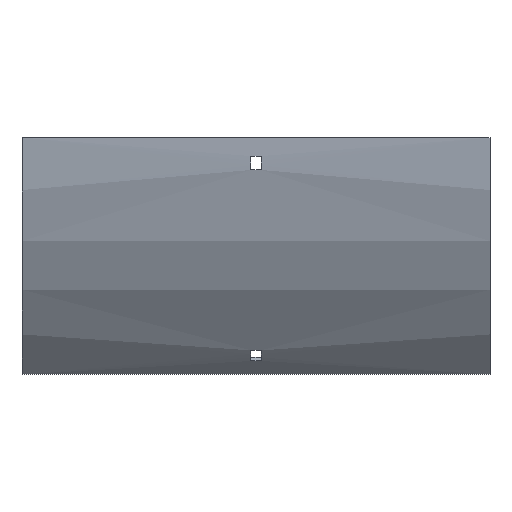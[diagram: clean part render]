
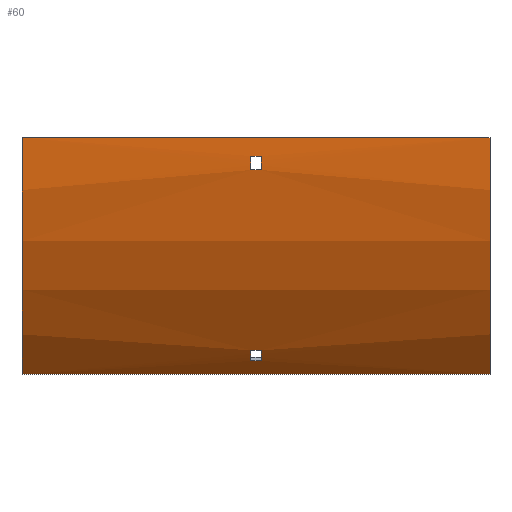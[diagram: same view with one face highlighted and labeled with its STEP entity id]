
A CAD part, front view. The second image highlights one B-rep face of the part: STEP entity #60.
In plain terms, the highlighted cylindrical face has radius 217.5 mm (diameter 435 mm), a partial arc.
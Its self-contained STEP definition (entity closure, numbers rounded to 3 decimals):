
#30 = CIRCLE ( 'NONE', #688, 217.5 ) ;
#43 = LINE ( 'NONE', #564, #1506 ) ;
#54 = CARTESIAN_POINT ( 'NONE',  ( 152., -116.484, -21. ) ) ;
#55 = VERTEX_POINT ( 'NONE', #783 ) ;
#60 = ADVANCED_FACE ( 'NONE', ( #1447, #534, #1217 ), #1431, .T. ) ;
#62 = EDGE_CURVE ( 'NONE', #1177, #264, #43, .T. ) ;
#66 = ORIENTED_EDGE ( 'NONE', *, *, #1547, .T. ) ;
#68 = CARTESIAN_POINT ( 'NONE',  ( 3.25, -62.047, -145.076 ) ) ;
#69 = AXIS2_PLACEMENT_3D ( 'NONE', #502, #102, #1265 ) ;
#71 = CARTESIAN_POINT ( 'NONE',  ( -152., -117.5, 0. ) ) ;
#78 = AXIS2_PLACEMENT_3D ( 'NONE', #1236, #981, #337 ) ;
#102 = DIRECTION ( 'NONE',  ( 1., 0., 0. ) ) ;
#183 = CARTESIAN_POINT ( 'NONE',  ( -3.25, -62.047, -145.076 ) ) ;
#241 = EDGE_CURVE ( 'NONE', #243, #751, #706, .T. ) ;
#243 = VERTEX_POINT ( 'NONE', #1617 ) ;
#255 = CARTESIAN_POINT ( 'NONE',  ( 152., -62.047, -145.076 ) ) ;
#257 = EDGE_CURVE ( 'NONE', #1668, #264, #840, .T. ) ;
#264 = VERTEX_POINT ( 'NONE', #957 ) ;
#313 = VERTEX_POINT ( 'NONE', #520 ) ;
#322 = VERTEX_POINT ( 'NONE', #1581 ) ;
#333 = EDGE_CURVE ( 'NONE', #313, #243, #402, .T. ) ;
#337 = DIRECTION ( 'NONE',  ( 0., 0., -1. ) ) ;
#355 = DIRECTION ( 'NONE',  ( 1., 0., 0. ) ) ;
#390 = EDGE_CURVE ( 'NONE', #799, #595, #812, .T. ) ;
#402 = CIRCLE ( 'NONE', #1330, 217.5 ) ;
#407 = DIRECTION ( 'NONE',  ( 0., 0., 1. ) ) ;
#424 = DIRECTION ( 'NONE',  ( 0., 0., 1. ) ) ;
#430 = CARTESIAN_POINT ( 'NONE',  ( 3.25, -67.926, -138.228 ) ) ;
#460 = EDGE_LOOP ( 'NONE', ( #1153, #1362, #630, #66 ) ) ;
#482 = VECTOR ( 'NONE', #1024, 1000. ) ;
#502 = CARTESIAN_POINT ( 'NONE',  ( 152., 100., 0. ) ) ;
#505 = VECTOR ( 'NONE', #1323, 1000. ) ;
#513 = EDGE_CURVE ( 'NONE', #322, #313, #1427, .T. ) ;
#520 = CARTESIAN_POINT ( 'NONE',  ( 3.25, -117.169, -12. ) ) ;
#534 = FACE_BOUND ( 'NONE', #587, .T. ) ;
#547 = EDGE_CURVE ( 'NONE', #727, #799, #1416, .T. ) ;
#561 = DIRECTION ( 'NONE',  ( 1., 0., 0. ) ) ;
#564 = CARTESIAN_POINT ( 'NONE',  ( 152., -53.796, -153.796 ) ) ;
#575 = DIRECTION ( 'NONE',  ( -1., 0., 0. ) ) ;
#587 = EDGE_LOOP ( 'NONE', ( #1363, #1053, #1470, #623 ) ) ;
#595 = VERTEX_POINT ( 'NONE', #430 ) ;
#623 = ORIENTED_EDGE ( 'NONE', *, *, #333, .T. ) ;
#630 = ORIENTED_EDGE ( 'NONE', *, *, #868, .F. ) ;
#677 = VECTOR ( 'NONE', #575, 1000. ) ;
#680 = CARTESIAN_POINT ( 'NONE',  ( 3.25, 100., 0. ) ) ;
#688 = AXIS2_PLACEMENT_3D ( 'NONE', #1585, #1561, #908 ) ;
#703 = VERTEX_POINT ( 'NONE', #974 ) ;
#706 = LINE ( 'NONE', #54, #677 ) ;
#727 = VERTEX_POINT ( 'NONE', #183 ) ;
#742 = AXIS2_PLACEMENT_3D ( 'NONE', #1369, #1098, #847 ) ;
#751 = VERTEX_POINT ( 'NONE', #1382 ) ;
#764 = DIRECTION ( 'NONE',  ( -1., 0., 0. ) ) ;
#783 = CARTESIAN_POINT ( 'NONE',  ( 152., -117.5, 0. ) ) ;
#797 = VECTOR ( 'NONE', #355, 1000. ) ;
#798 = CARTESIAN_POINT ( 'NONE',  ( 152., -117.5, 0. ) ) ;
#799 = VERTEX_POINT ( 'NONE', #68 ) ;
#812 = CIRCLE ( 'NONE', #1034, 217.5 ) ;
#835 = CARTESIAN_POINT ( 'NONE',  ( 152., -53.796, -153.796 ) ) ;
#840 = CIRCLE ( 'NONE', #78, 217.5 ) ;
#847 = DIRECTION ( 'NONE',  ( 0., 0., 1. ) ) ;
#852 = AXIS2_PLACEMENT_3D ( 'NONE', #1584, #1567, #407 ) ;
#868 = EDGE_CURVE ( 'NONE', #55, #1177, #997, .T. ) ;
#908 = DIRECTION ( 'NONE',  ( 0., 0., -1. ) ) ;
#914 = ORIENTED_EDGE ( 'NONE', *, *, #1499, .F. ) ;
#940 = LINE ( 'NONE', #798, #505 ) ;
#957 = CARTESIAN_POINT ( 'NONE',  ( -152., -53.796, -153.796 ) ) ;
#974 = CARTESIAN_POINT ( 'NONE',  ( -3.25, -67.926, -138.228 ) ) ;
#981 = DIRECTION ( 'NONE',  ( 1., 0., 0. ) ) ;
#997 = CIRCLE ( 'NONE', #69, 217.5 ) ;
#1024 = DIRECTION ( 'NONE',  ( 1., 0., 0. ) ) ;
#1034 = AXIS2_PLACEMENT_3D ( 'NONE', #1356, #1348, #424 ) ;
#1043 = CIRCLE ( 'NONE', #742, 217.5 ) ;
#1053 = ORIENTED_EDGE ( 'NONE', *, *, #1259, .T. ) ;
#1061 = CARTESIAN_POINT ( 'NONE',  ( 152., -67.926, -138.228 ) ) ;
#1069 = ORIENTED_EDGE ( 'NONE', *, *, #390, .F. ) ;
#1098 = DIRECTION ( 'NONE',  ( -1., 0., 0. ) ) ;
#1107 = EDGE_CURVE ( 'NONE', #703, #727, #30, .T. ) ;
#1111 = ORIENTED_EDGE ( 'NONE', *, *, #547, .F. ) ;
#1153 = ORIENTED_EDGE ( 'NONE', *, *, #257, .T. ) ;
#1168 = VECTOR ( 'NONE', #764, 1000. ) ;
#1177 = VERTEX_POINT ( 'NONE', #835 ) ;
#1217 = FACE_BOUND ( 'NONE', #1327, .T. ) ;
#1236 = CARTESIAN_POINT ( 'NONE',  ( -152., 100., 0. ) ) ;
#1243 = CARTESIAN_POINT ( 'NONE',  ( 152., -117.169, -12. ) ) ;
#1259 = EDGE_CURVE ( 'NONE', #751, #322, #1043, .T. ) ;
#1265 = DIRECTION ( 'NONE',  ( 0., 0., -1. ) ) ;
#1323 = DIRECTION ( 'NONE',  ( -1., 0., 0. ) ) ;
#1327 = EDGE_LOOP ( 'NONE', ( #1394, #914, #1069, #1111 ) ) ;
#1330 = AXIS2_PLACEMENT_3D ( 'NONE', #680, #561, #1491 ) ;
#1348 = DIRECTION ( 'NONE',  ( -1., 0., 0. ) ) ;
#1356 = CARTESIAN_POINT ( 'NONE',  ( 3.25, 100., 0. ) ) ;
#1362 = ORIENTED_EDGE ( 'NONE', *, *, #62, .F. ) ;
#1363 = ORIENTED_EDGE ( 'NONE', *, *, #241, .T. ) ;
#1369 = CARTESIAN_POINT ( 'NONE',  ( -3.25, 100., 0. ) ) ;
#1382 = CARTESIAN_POINT ( 'NONE',  ( -3.25, -116.484, -21. ) ) ;
#1394 = ORIENTED_EDGE ( 'NONE', *, *, #1107, .F. ) ;
#1416 = LINE ( 'NONE', #255, #797 ) ;
#1420 = LINE ( 'NONE', #1061, #1168 ) ;
#1427 = LINE ( 'NONE', #1243, #482 ) ;
#1431 = CYLINDRICAL_SURFACE ( 'NONE', #852, 217.5 ) ;
#1447 = FACE_OUTER_BOUND ( 'NONE', #460, .T. ) ;
#1456 = DIRECTION ( 'NONE',  ( -1., 0., 0. ) ) ;
#1470 = ORIENTED_EDGE ( 'NONE', *, *, #513, .T. ) ;
#1491 = DIRECTION ( 'NONE',  ( 0., 0., -1. ) ) ;
#1499 = EDGE_CURVE ( 'NONE', #595, #703, #1420, .T. ) ;
#1506 = VECTOR ( 'NONE', #1456, 1000. ) ;
#1547 = EDGE_CURVE ( 'NONE', #55, #1668, #940, .T. ) ;
#1561 = DIRECTION ( 'NONE',  ( 1., 0., 0. ) ) ;
#1567 = DIRECTION ( 'NONE',  ( -1., 0., 0. ) ) ;
#1581 = CARTESIAN_POINT ( 'NONE',  ( -3.25, -117.169, -12. ) ) ;
#1584 = CARTESIAN_POINT ( 'NONE',  ( 152., 100., 0. ) ) ;
#1585 = CARTESIAN_POINT ( 'NONE',  ( -3.25, 100., 0. ) ) ;
#1617 = CARTESIAN_POINT ( 'NONE',  ( 3.25, -116.484, -21. ) ) ;
#1668 = VERTEX_POINT ( 'NONE', #71 ) ;
